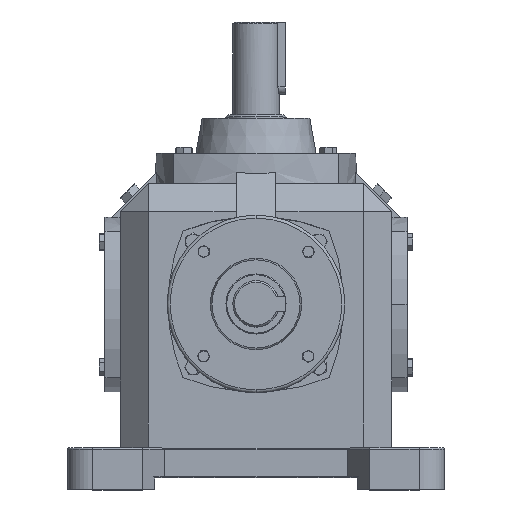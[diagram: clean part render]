
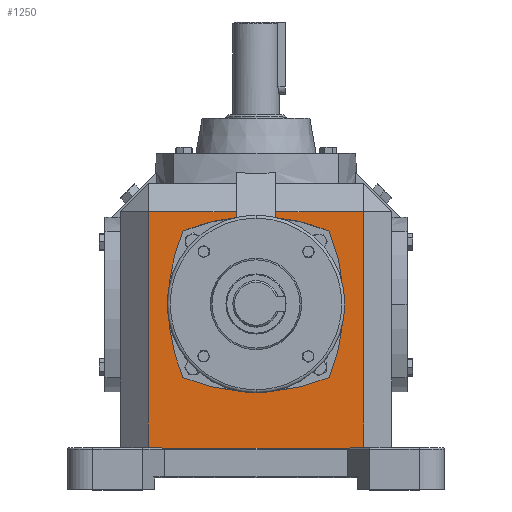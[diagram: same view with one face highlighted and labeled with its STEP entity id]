
A CAD part, top view. The second image highlights one B-rep face of the part: STEP entity #1250.
In plain terms, the highlighted planar face has unit normal (0, 0, 1).
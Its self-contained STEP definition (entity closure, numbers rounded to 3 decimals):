
#205 = VERTEX_POINT ( 'NONE', #6282 ) ;
#740 = DIRECTION ( 'NONE',  ( 0., -1., 0. ) ) ;
#815 = CARTESIAN_POINT ( 'NONE',  ( -8.114, 49.6, 55.8 ) ) ;
#819 = DIRECTION ( 'NONE',  ( 0., 0., -1. ) ) ;
#822 = CIRCLE ( 'NONE', #7010, 78.568 ) ;
#843 = ORIENTED_EDGE ( 'NONE', *, *, #4147, .F. ) ;
#962 = CARTESIAN_POINT ( 'NONE',  ( -55.8, 38.008, 55.8 ) ) ;
#1046 = VECTOR ( 'NONE', #5291, 1000. ) ;
#1126 = CARTESIAN_POINT ( 'NONE',  ( 42.56, 0., 55.8 ) ) ;
#1250 = ADVANCED_FACE ( 'NONE', ( #4953 ), #2556, .F. ) ;
#1290 = EDGE_CURVE ( 'NONE', #14262, #14431, #16260, .T. ) ;
#1299 = DIRECTION ( 'NONE',  ( 1., 0., 0. ) ) ;
#1353 = CARTESIAN_POINT ( 'NONE',  ( -44.208, 38.008, 55.8 ) ) ;
#1476 = VERTEX_POINT ( 'NONE', #1850 ) ;
#1551 = VECTOR ( 'NONE', #11210, 1000. ) ;
#1847 = ORIENTED_EDGE ( 'NONE', *, *, #5223, .T. ) ;
#1850 = CARTESIAN_POINT ( 'NONE',  ( 30.039, 30.039, 55.8 ) ) ;
#1949 = VERTEX_POINT ( 'NONE', #10736 ) ;
#1997 = AXIS2_PLACEMENT_3D ( 'NONE', #4106, #5592, #19430 ) ;
#2138 = CARTESIAN_POINT ( 'NONE',  ( -44.208, 49.6, 55.8 ) ) ;
#2279 = CIRCLE ( 'NONE', #15476, 78.568 ) ;
#2336 = ORIENTED_EDGE ( 'NONE', *, *, #17901, .F. ) ;
#2416 = VERTEX_POINT ( 'NONE', #11051 ) ;
#2503 = LINE ( 'NONE', #12546, #1551 ) ;
#2556 = PLANE ( 'NONE',  #15834 ) ;
#2744 = CARTESIAN_POINT ( 'NONE',  ( 0., 42.56, 55.8 ) ) ;
#2790 = CIRCLE ( 'NONE', #15339, 78.568 ) ;
#2816 = DIRECTION ( 'NONE',  ( 0., 0., 1. ) ) ;
#2838 = ORIENTED_EDGE ( 'NONE', *, *, #3360, .T. ) ;
#2886 = VERTEX_POINT ( 'NONE', #4507 ) ;
#2947 = AXIS2_PLACEMENT_3D ( 'NONE', #11401, #5009, #6538 ) ;
#3110 = CARTESIAN_POINT ( 'NONE',  ( -36.008, 0., 55.8 ) ) ;
#3135 = DIRECTION ( 'NONE',  ( 1., 0., 0. ) ) ;
#3272 = EDGE_CURVE ( 'NONE', #9807, #2886, #2279, .T. ) ;
#3360 = EDGE_CURVE ( 'NONE', #5529, #16441, #19552, .T. ) ;
#3369 = DIRECTION ( 'NONE',  ( 1., 0., 0. ) ) ;
#3500 = DIRECTION ( 'NONE',  ( 0., 0., 1. ) ) ;
#4106 = CARTESIAN_POINT ( 'NONE',  ( 42.56, 0., 55.8 ) ) ;
#4147 = EDGE_CURVE ( 'NONE', #205, #19733, #19567, .T. ) ;
#4376 = EDGE_CURVE ( 'NONE', #8602, #5529, #2503, .T. ) ;
#4507 = CARTESIAN_POINT ( 'NONE',  ( 30.039, -30.039, 55.8 ) ) ;
#4691 = EDGE_CURVE ( 'NONE', #1949, #205, #822, .T. ) ;
#4953 = FACE_OUTER_BOUND ( 'NONE', #9824, .T. ) ;
#5009 = DIRECTION ( 'NONE',  ( 0., 0., 1. ) ) ;
#5047 = ORIENTED_EDGE ( 'NONE', *, *, #4376, .T. ) ;
#5139 = VECTOR ( 'NONE', #9184, 1000. ) ;
#5168 = CARTESIAN_POINT ( 'NONE',  ( 8.114, 38.008, 55.8 ) ) ;
#5223 = EDGE_CURVE ( 'NONE', #1949, #14262, #17585, .T. ) ;
#5247 = CIRCLE ( 'NONE', #2947, 78.568 ) ;
#5291 = DIRECTION ( 'NONE',  ( 0., 1., 0. ) ) ;
#5479 = CARTESIAN_POINT ( 'NONE',  ( 44.208, -59., 55.8 ) ) ;
#5529 = VERTEX_POINT ( 'NONE', #8434 ) ;
#5592 = DIRECTION ( 'NONE',  ( 0., 0., 1. ) ) ;
#5773 = VERTEX_POINT ( 'NONE', #5783 ) ;
#5783 = CARTESIAN_POINT ( 'NONE',  ( 8.114, 35.588, 55.8 ) ) ;
#5865 = LINE ( 'NONE', #15621, #9241 ) ;
#6282 = CARTESIAN_POINT ( 'NONE',  ( -30.039, 30.039, 55.8 ) ) ;
#6538 = DIRECTION ( 'NONE',  ( 1., 0., 0. ) ) ;
#6578 = VECTOR ( 'NONE', #3135, 1000. ) ;
#6780 = EDGE_CURVE ( 'NONE', #19733, #9807, #14401, .T. ) ;
#6937 = EDGE_CURVE ( 'NONE', #14431, #2416, #12253, .T. ) ;
#7010 = AXIS2_PLACEMENT_3D ( 'NONE', #9228, #3500, #3369 ) ;
#7609 = ORIENTED_EDGE ( 'NONE', *, *, #11503, .F. ) ;
#7692 = ORIENTED_EDGE ( 'NONE', *, *, #19245, .T. ) ;
#7836 = CARTESIAN_POINT ( 'NONE',  ( -55.8, -59., 55.8 ) ) ;
#7960 = DIRECTION ( 'NONE',  ( 0., -1., 0. ) ) ;
#8434 = CARTESIAN_POINT ( 'NONE',  ( 44.208, 38.008, 55.8 ) ) ;
#8589 = CARTESIAN_POINT ( 'NONE',  ( -55.8, 49.6, 55.8 ) ) ;
#8602 = VERTEX_POINT ( 'NONE', #5479 ) ;
#9009 = LINE ( 'NONE', #7836, #6578 ) ;
#9184 = DIRECTION ( 'NONE',  ( -1., 0., 0. ) ) ;
#9228 = CARTESIAN_POINT ( 'NONE',  ( 0., -42.56, 55.8 ) ) ;
#9241 = VECTOR ( 'NONE', #7960, 1000. ) ;
#9361 = VECTOR ( 'NONE', #740, 1000. ) ;
#9807 = VERTEX_POINT ( 'NONE', #16327 ) ;
#9824 = EDGE_LOOP ( 'NONE', ( #16163, #1847, #10653, #9876, #11262, #5047, #2838, #7692, #7609, #2336, #15460, #18804, #843 ) ) ;
#9876 = ORIENTED_EDGE ( 'NONE', *, *, #6937, .T. ) ;
#10501 = VECTOR ( 'NONE', #14766, 1000. ) ;
#10653 = ORIENTED_EDGE ( 'NONE', *, *, #1290, .T. ) ;
#10736 = CARTESIAN_POINT ( 'NONE',  ( -8.114, 35.588, 55.8 ) ) ;
#11051 = CARTESIAN_POINT ( 'NONE',  ( -44.208, -59., 55.8 ) ) ;
#11210 = DIRECTION ( 'NONE',  ( 0., 1., 0. ) ) ;
#11262 = ORIENTED_EDGE ( 'NONE', *, *, #12114, .T. ) ;
#11401 = CARTESIAN_POINT ( 'NONE',  ( -42.56, 0., 55.8 ) ) ;
#11503 = EDGE_CURVE ( 'NONE', #1476, #5773, #2790, .T. ) ;
#11564 = DIRECTION ( 'NONE',  ( -1., 0., 0. ) ) ;
#11781 = CARTESIAN_POINT ( 'NONE',  ( 0., -42.56, 55.8 ) ) ;
#11842 = DIRECTION ( 'NONE',  ( 1., 0., 0. ) ) ;
#12114 = EDGE_CURVE ( 'NONE', #2416, #8602, #9009, .T. ) ;
#12253 = LINE ( 'NONE', #2138, #9361 ) ;
#12546 = CARTESIAN_POINT ( 'NONE',  ( 44.208, 49.6, 55.8 ) ) ;
#13588 = AXIS2_PLACEMENT_3D ( 'NONE', #1126, #15124, #16478 ) ;
#13730 = CARTESIAN_POINT ( 'NONE',  ( -55.8, 38.008, 55.8 ) ) ;
#14262 = VERTEX_POINT ( 'NONE', #14541 ) ;
#14401 = CIRCLE ( 'NONE', #13588, 78.568 ) ;
#14431 = VERTEX_POINT ( 'NONE', #1353 ) ;
#14541 = CARTESIAN_POINT ( 'NONE',  ( -8.114, 38.008, 55.8 ) ) ;
#14766 = DIRECTION ( 'NONE',  ( -1., 0., 0. ) ) ;
#15124 = DIRECTION ( 'NONE',  ( 0., 0., 1. ) ) ;
#15339 = AXIS2_PLACEMENT_3D ( 'NONE', #11781, #17796, #11842 ) ;
#15460 = ORIENTED_EDGE ( 'NONE', *, *, #3272, .F. ) ;
#15476 = AXIS2_PLACEMENT_3D ( 'NONE', #2744, #2816, #1299 ) ;
#15621 = CARTESIAN_POINT ( 'NONE',  ( 8.114, 49.6, 55.8 ) ) ;
#15834 = AXIS2_PLACEMENT_3D ( 'NONE', #8589, #819, #11564 ) ;
#16163 = ORIENTED_EDGE ( 'NONE', *, *, #4691, .F. ) ;
#16260 = LINE ( 'NONE', #962, #10501 ) ;
#16327 = CARTESIAN_POINT ( 'NONE',  ( -30.039, -30.039, 55.8 ) ) ;
#16441 = VERTEX_POINT ( 'NONE', #5168 ) ;
#16478 = DIRECTION ( 'NONE',  ( 1., 0., 0. ) ) ;
#17585 = LINE ( 'NONE', #815, #1046 ) ;
#17796 = DIRECTION ( 'NONE',  ( 0., 0., 1. ) ) ;
#17901 = EDGE_CURVE ( 'NONE', #2886, #1476, #5247, .T. ) ;
#18804 = ORIENTED_EDGE ( 'NONE', *, *, #6780, .F. ) ;
#19245 = EDGE_CURVE ( 'NONE', #16441, #5773, #5865, .T. ) ;
#19430 = DIRECTION ( 'NONE',  ( 1., 0., 0. ) ) ;
#19552 = LINE ( 'NONE', #13730, #5139 ) ;
#19567 = CIRCLE ( 'NONE', #1997, 78.568 ) ;
#19733 = VERTEX_POINT ( 'NONE', #3110 ) ;
